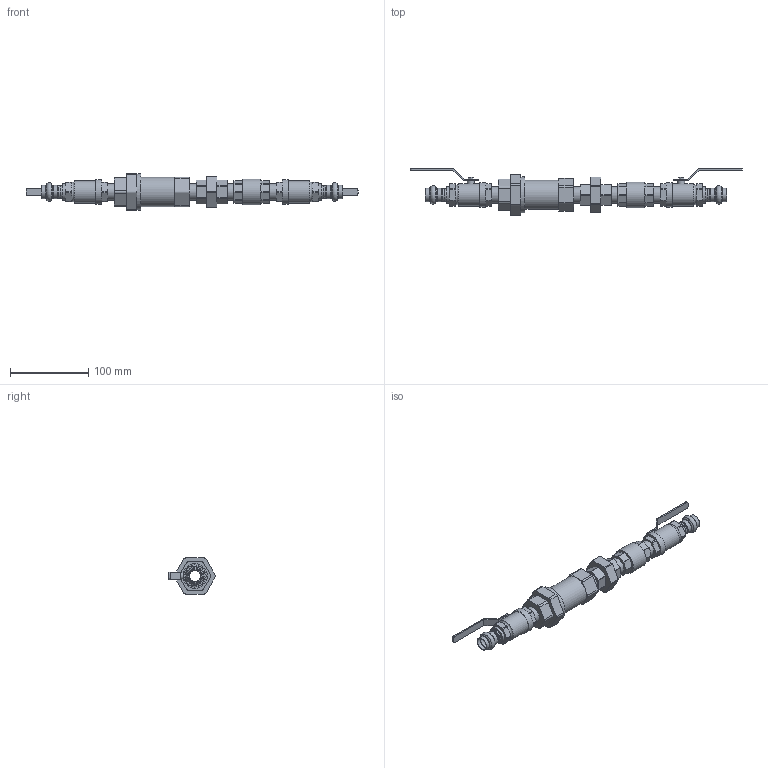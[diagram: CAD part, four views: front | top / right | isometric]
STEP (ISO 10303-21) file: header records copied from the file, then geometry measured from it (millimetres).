
FILE_DESCRIPTION(/* description */ ('VIC DOMESTIC WATER KIT FOR HYDRONIC BALANCING SERIES 7WX (CPF)','CAx-IF Rec.Pracs.---Representation and Presentation of Product Manufacturing Information (PMI)---4.0---2014-10-13'),/* implementation_level */ '2;1');
FILE_NAME(/* name */ 'C:\Users\Vjadhav\AppData\Roaming\Autodesk\ApplicationPlugins\Victaulic.Temp\A398\Victaulic_Domestic Water Kit for Hydronic Balancing_Series 7WX (CPF)_PRS_0.5 (15).stp',/* time_stamp */ '2021-08-10T11:09:44+06:00',/* author */ ('Vjadhav'),/* organization */ ('Victaulic'),/* preprocessor_version */ 'ST-DEVELOPER v17.2',/* originating_system */ 'Autodesk Inventor 2019',/* authorisation */ '');
FILE_SCHEMA (('AP242_MANAGED_MODEL_BASED_3D_ENGINEERING_MIM_LF { 1 0 10303 442 1 1 4 }'));
Length unit declared in the file: inch
Products named in the file (7): 7WX_PRS-0.5; Union_BR_386-0.5; Check_Valve_4133-0.5; Nipple_BR_386_Prs-0.5; 722L_Prs-0.5; P596-0.5x0.5; 76X-0.5
Assembly tree (11 placements, depth 2):
  7WX_PRS-0.5
    Union_BR_386-0.5
    Nipple_BR_386_Prs-0.5  x4
    722L_Prs-0.5  x2
    P596-0.5x0.5  x2
    Check_Valve_4133-0.5
    76X-0.5
Bounding box: 425.45 x 60.07 x 46.21 mm (x, y, z)
Volume: 212577.9 mm3; surface area: 89679.3 mm2
Topology: 11 solids, 11 shells, 364 faces, 996 edges, 690 vertices
Faces by surface type: plane 222, cylinder 112, torus 22, cone 8
Full cylindrical faces by diameter (mm): 3.81 x2, 8.763 x2, 14.453 x2, 15.138 x2, 15.799 x7, 15.875 x6, 15.9 x4, 17.297 x4, 21.336 x16, 28.567 x2, 31.496 x2, 33.02 x1, 37.316 x1, 46.206 x1
Entity records: 8795 total; most frequent: CARTESIAN_POINT 1531, DIRECTION 1500, ORIENTED_EDGE 1364, EDGE_CURVE 682, AXIS2_PLACEMENT_3D 558, VERTEX_POINT 467, LINE 384, VECTOR 384
